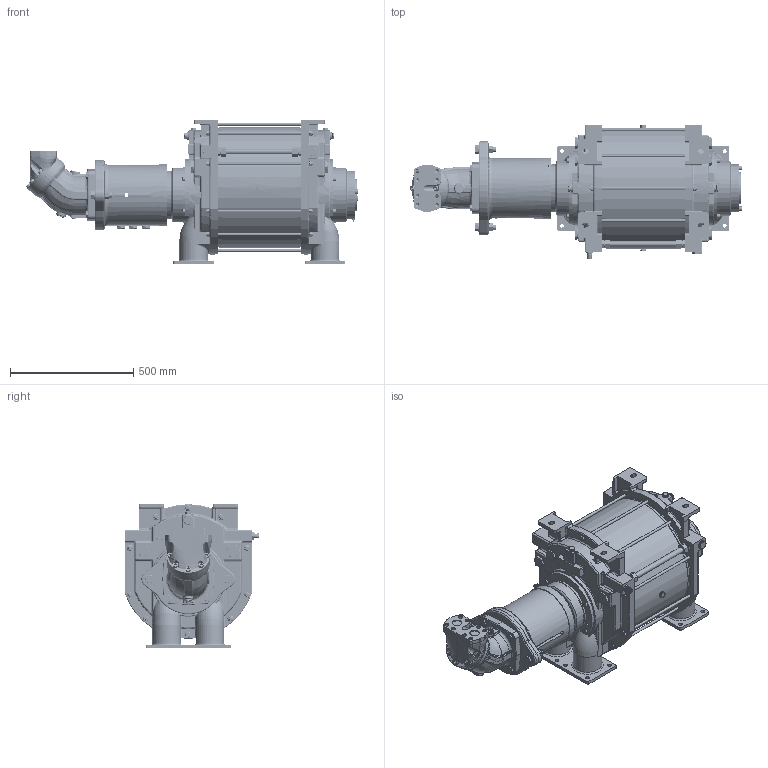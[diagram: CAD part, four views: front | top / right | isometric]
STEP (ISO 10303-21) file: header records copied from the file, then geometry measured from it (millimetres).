
FILE_DESCRIPTION(/* description */ (''),/* implementation_level */ '2;1');
FILE_NAME(/* name */ '1700049A.stp',/* time_stamp */ '2025-04-24T09:33:38+02:00',/* author */ ('JJ'),/* organization */ (''),/* preprocessor_version */ 'ST-DEVELOPER v20',/* originating_system */ 'Autodesk Inventor 2025',/* authorisation */ '');
FILE_SCHEMA (('AUTOMOTIVE_DESIGN { 1 0 10303 214 3 1 1 }'));
Products named in the file (5): 1700049; 910000407; 1634769_Simplify_1; 1700048 Ready for adaptor; 944000089
Assembly tree (7 placements, depth 2):
  1700049
    910000407  x4
    1634769_Simplify_1
    1700048 Ready for adaptor
    944000089
Bounding box: 1345.77 x 545.5 x 585 mm (x, y, z)
Volume: 128535317.1 mm3; surface area: 3482802.5 mm2
Topology: 8 solids, 8 shells, 3864 faces, 9556 edges, 5939 vertices
Faces by surface type: plane 1413, cylinder 936, bspline 779, cone 391, torus 265, sphere 80
Full cylindrical faces by diameter (mm): 3 x2, 3.3 x8, 4 x4, 6 x3, 6.5 x1, 6.65 x1, 8 x2, 10 x1, 10.106 x10, 10.75 x10, 11 x1, 12 x27, 13 x6, 13.835 x8, 13.84 x4, 14 x1, 14.224 x1, 14.917 x4, 15 x17, 16 x4, 17 x1, 17.294 x1, 18 x22, 19 x1, 19.847 x1, 19.984 x1, 20 x9, 20.376 x3, 21 x7, 21.8 x6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
Entity records: 254883 total; most frequent: CARTESIAN_POINT 166146, ORIENTED_EDGE 18670, DIRECTION 16202, EDGE_CURVE 9335, AXIS2_PLACEMENT_3D 6265, VERTEX_POINT 5861, EDGE_LOOP 4240, FACE_OUTER_BOUND 3801
